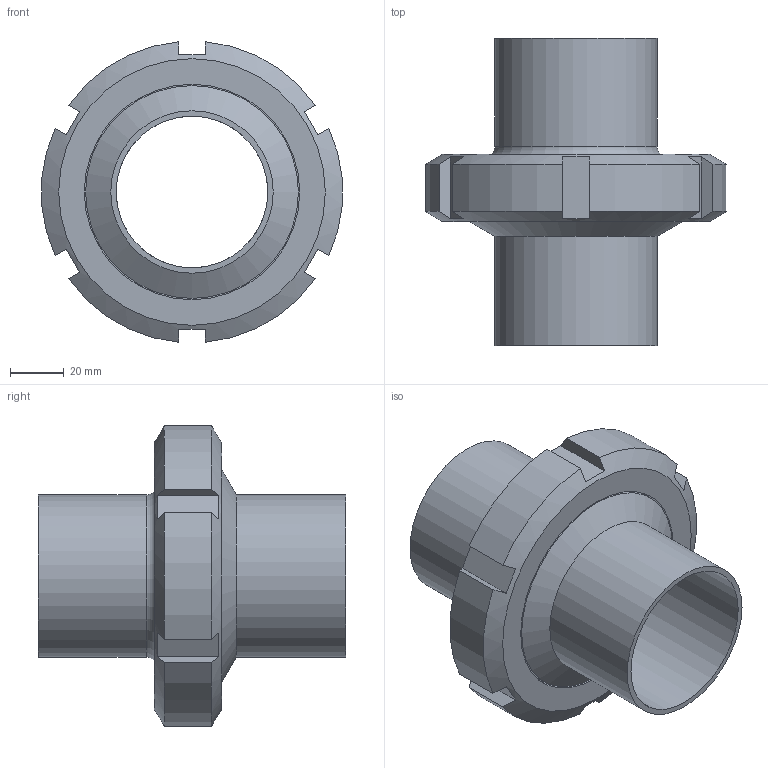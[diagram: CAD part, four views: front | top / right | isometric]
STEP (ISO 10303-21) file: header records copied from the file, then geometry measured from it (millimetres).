
FILE_DESCRIPTION(/* description */ ('Aseptik_Rohrverbindung_DIN 11864-1-A_60,3x2_L114'),/* implementation_level */ '2;1');
FILE_NAME(/* name */ 'L:\Normteile\N0024 - Rohrverbindungen\N0024_002 - DIN11864\N0024_002_001 - geschraubt\N0024_002_001\Step Marketing\DIN11864-1-A_60,3x2_L114.stp',/* time_stamp */ '2021-08-31T10:25:56+02:00',/* author */ ('Csasse'),/* organization */ ('Dockweiler AG'),/* preprocessor_version */ 'ST-DEVELOPER v18',/* originating_system */ 'Autodesk Inventor 2020',/* authorisation */ '');
FILE_SCHEMA (('AUTOMOTIVE_DESIGN { 1 0 10303 214 3 1 1 }'));
Length unit declared in the file: millimetre
Products named in the file (5): N0024_002_001_46; N0003_007_001_18; N0003_007_002_18; N0005_005_002_001_19; N0009_009_18
Assembly tree (4 placements, depth 2):
  N0024_002_001_46
    N0003_007_001_18
    N0003_007_002_18
    N0005_005_002_001_19
    N0009_009_18
Bounding box: 111.58 x 114 x 111.55 mm (x, y, z)
Volume: 209701.2 mm3; surface area: 89512.5 mm2
Topology: 4 solids, 4 shells, 68 faces, 200 edges, 144 vertices
Faces by surface type: plane 30, cylinder 16, torus 12, cone 10
Full cylindrical faces by diameter (mm): 56.3 x2, 60.3 x2, 79 x1, 80 x1, 84.9 x1, 85 x1, 90.767 x1, 95.423 x1
Entity records: 2600 total; most frequent: CARTESIAN_POINT 497, DIRECTION 434, ORIENTED_EDGE 400, EDGE_CURVE 200, AXIS2_PLACEMENT_3D 195, VERTEX_POINT 144, CIRCLE 118, EDGE_LOOP 80
